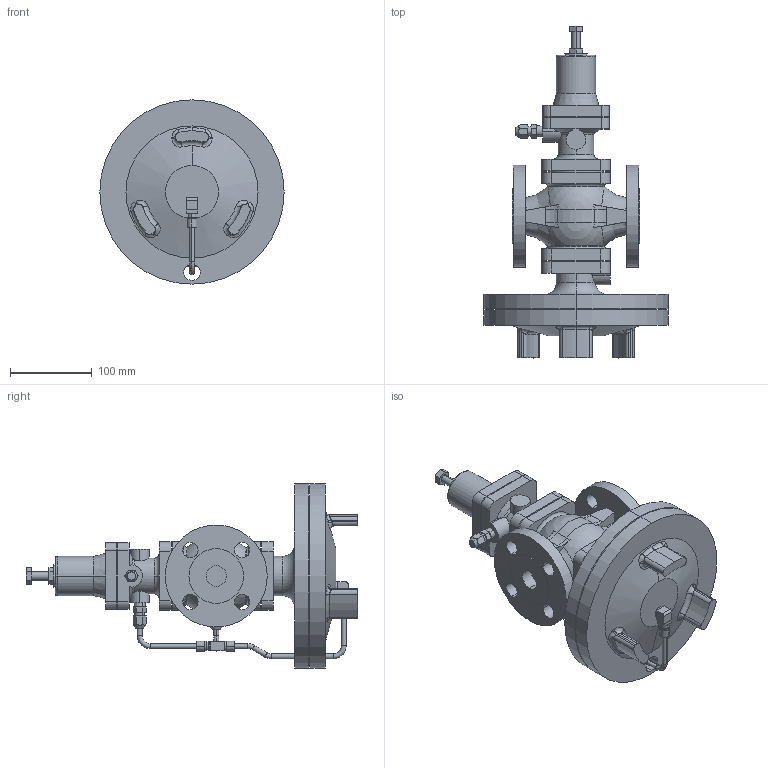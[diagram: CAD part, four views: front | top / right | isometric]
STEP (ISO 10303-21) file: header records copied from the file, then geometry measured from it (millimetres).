
FILE_DESCRIPTION (( 'STEP AP203' ), '1' );
FILE_NAME ('GPR-2000 JIS20K 25A.STEP', '2025-12-05T02:02:17', ( '' ), ( '' ), 'SwSTEP 2.0', 'SolidWorks 2024', '' );
FILE_SCHEMA (( 'CONFIG_CONTROL_DESIGN' ));
Length unit declared in the file: millimetre
Products named in the file (8): GPR-2000 JIS20K 25A; Tee; Pipe C 25A; Joint; Pipe B 25A; GPR-2000 Body Assy EN 25A; Pipe A 15-25A; Elbow
Assembly tree (9 placements, depth 2):
  GPR-2000 JIS20K 25A
    GPR-2000 Body Assy EN 25A
    Tee
    Pipe B 25A
    Joint  x3
    Pipe C 25A
    Elbow
    Pipe A 15-25A
Bounding box: 226 x 407.1 x 226 mm (x, y, z)
Volume: 3441584.4 mm3; surface area: 361127.1 mm2
Topology: 9 solids, 9 shells, 471 faces, 1180 edges, 771 vertices
Faces by surface type: plane 193, cylinder 185, torus 38, cone 27, bspline 24, sphere 4
Entity records: 16794 total; most frequent: CARTESIAN_POINT 5786, DIRECTION 2176, ORIENTED_EDGE 2076, EDGE_CURVE 1038, AXIS2_PLACEMENT_3D 861, VERTEX_POINT 671, EDGE_LOOP 489, LINE 454
